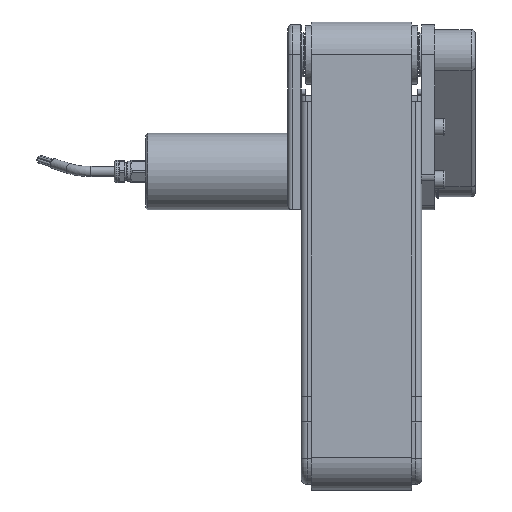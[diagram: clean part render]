
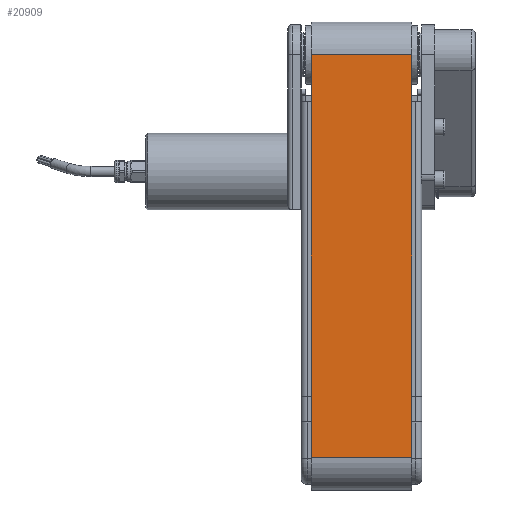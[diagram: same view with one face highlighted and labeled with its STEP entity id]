
A CAD part, front view. The second image highlights one B-rep face of the part: STEP entity #20909.
In plain terms, the highlighted planar face has unit normal (0, -1, 0).
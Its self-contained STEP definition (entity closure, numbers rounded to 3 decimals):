
#3117=FACE_OUTER_BOUND('',#4339,.T.);
#4339=EDGE_LOOP('',(#17205,#17206,#17207,#17208));
#5872=LINE('',#35936,#7364);
#5873=LINE('',#35941,#7365);
#5875=LINE('',#35945,#7367);
#5876=LINE('',#35946,#7368);
#7364=VECTOR('',#27913,10.);
#7365=VECTOR('',#27918,10.);
#7367=VECTOR('',#27922,10.);
#7368=VECTOR('',#27923,10.);
#9186=VERTEX_POINT('',#35930);
#9188=VERTEX_POINT('',#35934);
#9190=VERTEX_POINT('',#35939);
#9191=VERTEX_POINT('',#35944);
#11937=EDGE_CURVE('',#9186,#9188,#5872,.T.);
#11939=EDGE_CURVE('',#9190,#9188,#5873,.T.);
#11941=EDGE_CURVE('',#9190,#9191,#5875,.T.);
#11942=EDGE_CURVE('',#9191,#9186,#5876,.T.);
#17205=ORIENTED_EDGE('',*,*,#11941,.T.);
#17206=ORIENTED_EDGE('',*,*,#11942,.T.);
#17207=ORIENTED_EDGE('',*,*,#11937,.T.);
#17208=ORIENTED_EDGE('',*,*,#11939,.F.);
#18829=PLANE('',#22848);
#20909=ADVANCED_FACE('',(#3117),#18829,.T.);
#22848=AXIS2_PLACEMENT_3D('',#35943,#27920,#27921);
#27913=DIRECTION('',(0.,0.,1.));
#27918=DIRECTION('',(1.,0.,0.));
#27920=DIRECTION('center_axis',(0.,-1.,0.));
#27921=DIRECTION('ref_axis',(1.,0.,0.));
#27922=DIRECTION('',(0.,0.,-1.));
#27923=DIRECTION('',(1.,0.,0.));
#35930=CARTESIAN_POINT('',(25.,-16.3,-103.5));
#35934=CARTESIAN_POINT('',(25.,-16.3,96.5));
#35936=CARTESIAN_POINT('',(25.,-16.3,96.5));
#35939=CARTESIAN_POINT('',(-25.,-16.3,96.5));
#35941=CARTESIAN_POINT('',(0.,-16.3,96.5));
#35943=CARTESIAN_POINT('Origin',(0.,-16.3,96.5));
#35944=CARTESIAN_POINT('',(-25.,-16.3,-103.5));
#35945=CARTESIAN_POINT('',(-25.,-16.3,96.5));
#35946=CARTESIAN_POINT('',(0.,-16.3,-103.5));
